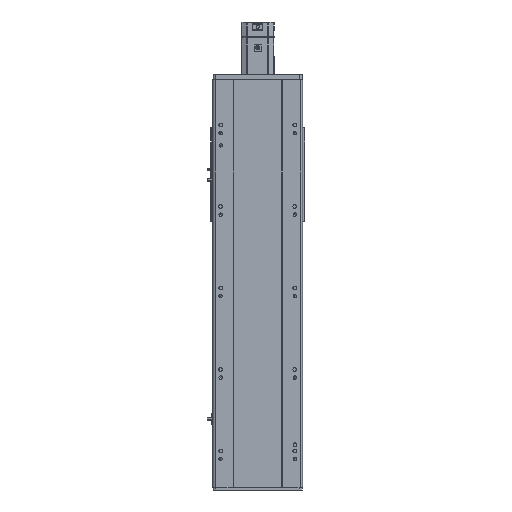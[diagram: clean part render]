
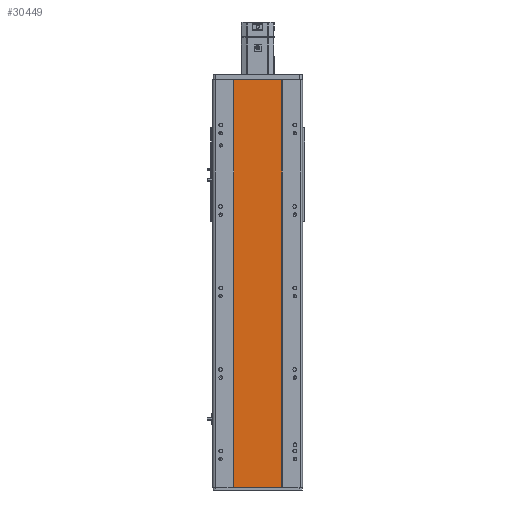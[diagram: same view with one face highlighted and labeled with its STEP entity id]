
A CAD part, front view. The second image highlights one B-rep face of the part: STEP entity #30449.
In plain terms, the highlighted planar face has unit normal (0, -1, 0).
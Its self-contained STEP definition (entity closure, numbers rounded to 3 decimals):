
#39 = ORIENTED_EDGE ( 'NONE', *, *, #22349, .F. ) ;
#1065 = DIRECTION ( 'NONE',  ( 1., 0., 0. ) ) ;
#2028 = CARTESIAN_POINT ( 'NONE',  ( -59., 1., 500.5 ) ) ;
#3703 = EDGE_CURVE ( 'NONE', #7343, #34657, #35375, .T. ) ;
#4215 = CARTESIAN_POINT ( 'NONE',  ( -59., 1., 500.5 ) ) ;
#4807 = EDGE_LOOP ( 'NONE', ( #34978, #39, #10265, #19106 ) ) ;
#5425 = EDGE_CURVE ( 'NONE', #7343, #19875, #6640, .T. ) ;
#6640 = LINE ( 'NONE', #4215, #26582 ) ;
#6926 = CARTESIAN_POINT ( 'NONE',  ( 59., 1., -500.5 ) ) ;
#7343 = VERTEX_POINT ( 'NONE', #37080 ) ;
#10265 = ORIENTED_EDGE ( 'NONE', *, *, #3703, .F. ) ;
#13544 = PLANE ( 'NONE',  #35170 ) ;
#15111 = DIRECTION ( 'NONE',  ( 0., 0., -1. ) ) ;
#16312 = CARTESIAN_POINT ( 'NONE',  ( -59., 1., 500.5 ) ) ;
#18058 = CARTESIAN_POINT ( 'NONE',  ( -59., 1., -500.5 ) ) ;
#18912 = CARTESIAN_POINT ( 'NONE',  ( 59., 1., 500.5 ) ) ;
#19106 = ORIENTED_EDGE ( 'NONE', *, *, #5425, .T. ) ;
#19875 = VERTEX_POINT ( 'NONE', #18058 ) ;
#19935 = VECTOR ( 'NONE', #15111, 1000. ) ;
#20662 = VECTOR ( 'NONE', #1065, 1000. ) ;
#22349 = EDGE_CURVE ( 'NONE', #34657, #32657, #35410, .T. ) ;
#25168 = DIRECTION ( 'NONE',  ( 1., 0., 0. ) ) ;
#26582 = VECTOR ( 'NONE', #32860, 1000. ) ;
#28413 = LINE ( 'NONE', #35504, #20662 ) ;
#28999 = VECTOR ( 'NONE', #25168, 1000. ) ;
#29725 = FACE_OUTER_BOUND ( 'NONE', #4807, .T. ) ;
#30239 = EDGE_CURVE ( 'NONE', #19875, #32657, #28413, .T. ) ;
#30449 = ADVANCED_FACE ( 'NONE', ( #29725 ), #13544, .F. ) ;
#32406 = CARTESIAN_POINT ( 'NONE',  ( 59., 1., 500.5 ) ) ;
#32657 = VERTEX_POINT ( 'NONE', #6926 ) ;
#32860 = DIRECTION ( 'NONE',  ( 0., 0., -1. ) ) ;
#33479 = DIRECTION ( 'NONE',  ( -1., 0., 0. ) ) ;
#34657 = VERTEX_POINT ( 'NONE', #18912 ) ;
#34978 = ORIENTED_EDGE ( 'NONE', *, *, #30239, .T. ) ;
#35170 = AXIS2_PLACEMENT_3D ( 'NONE', #16312, #36649, #33479 ) ;
#35375 = LINE ( 'NONE', #2028, #28999 ) ;
#35410 = LINE ( 'NONE', #32406, #19935 ) ;
#35504 = CARTESIAN_POINT ( 'NONE',  ( -59., 1., -500.5 ) ) ;
#36649 = DIRECTION ( 'NONE',  ( 0., 1., 0. ) ) ;
#37080 = CARTESIAN_POINT ( 'NONE',  ( -59., 1., 500.5 ) ) ;
